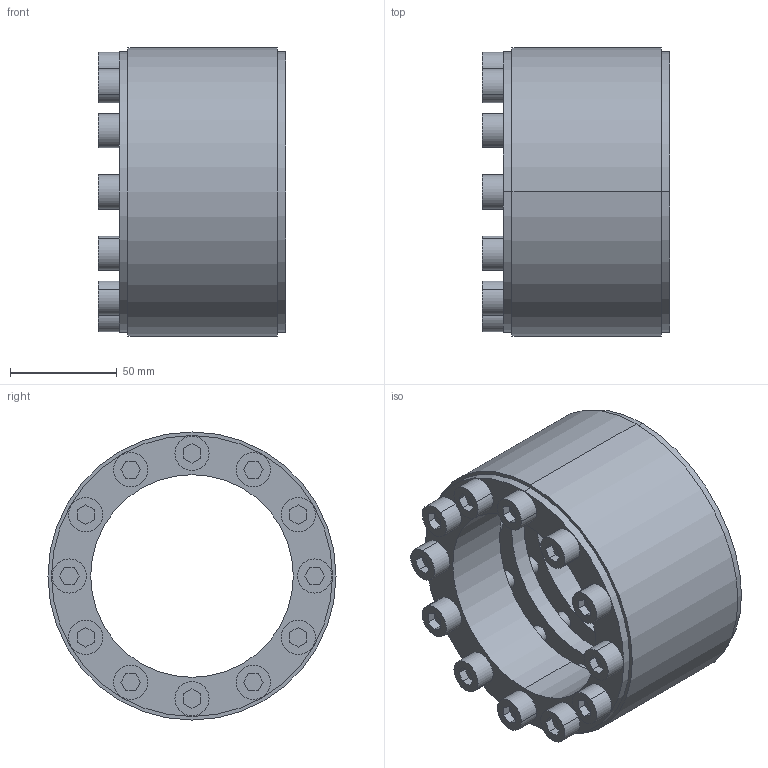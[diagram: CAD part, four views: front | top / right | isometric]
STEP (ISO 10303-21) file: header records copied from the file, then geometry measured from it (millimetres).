
FILE_DESCRIPTION (( 'STEP AP203' ), '1' );
FILE_NAME ('SF-95.STEP', '2009-09-29T17:21:01', ( 'USER' ), ( 'HOME' ), 'SwSTEP 2.0', 'SolidWorks 2007', '' );
FILE_SCHEMA (( 'CONFIG_CONTROL_DESIGN' ));
Length unit declared in the file: millimetre
Products named in the file (1): SF-95
Bounding box: 88 x 135 x 135 mm (x, y, z)
Volume: 490252.4 mm3; surface area: 146506.3 mm2
Topology: 13 solids, 13 shells, 264 faces, 624 edges, 416 vertices
Faces by surface type: cylinder 136, plane 128
Entity records: 7901 total; most frequent: DIRECTION 1426, CARTESIAN_POINT 1305, ORIENTED_EDGE 1248, EDGE_CURVE 624, AXIS2_PLACEMENT_3D 537, VERTEX_POINT 416, EDGE_LOOP 368, LINE 352
